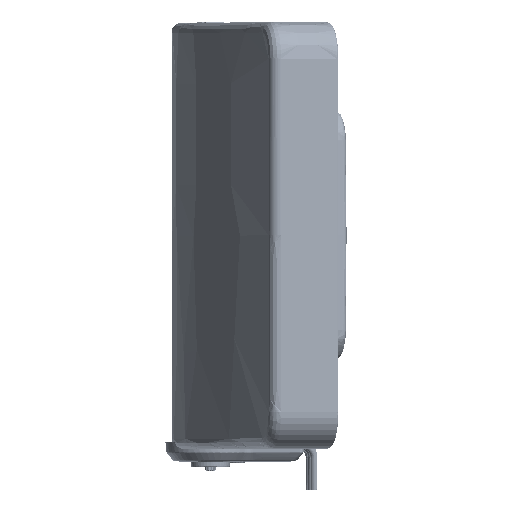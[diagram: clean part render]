
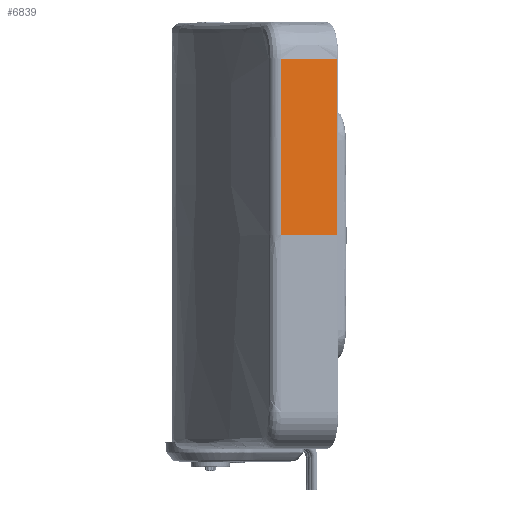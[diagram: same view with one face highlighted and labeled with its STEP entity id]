
A CAD part, top view. The second image highlights one B-rep face of the part: STEP entity #6839.
In plain terms, the highlighted planar face has unit normal (0.254, 0, 0.967).
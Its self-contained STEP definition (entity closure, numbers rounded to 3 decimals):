
#6816=AXIS2_PLACEMENT_3D('Plane Axis2P3D',#6813,#6814,#6815) ;
#2843=CARTESIAN_POINT('Vertex',(661.64,90.267,289.8)) ;
#4037=CARTESIAN_POINT('Line Origine',(661.642,215.666,289.8)) ;
#4041=CARTESIAN_POINT('Vertex',(661.642,297.838,289.8)) ;
#4635=CARTESIAN_POINT('Line Origine',(694.203,90.267,281.248)) ;
#4639=CARTESIAN_POINT('Vertex',(726.764,90.266,272.697)) ;
#6813=CARTESIAN_POINT('Axis2P3D Location',(689.623,214.809,282.451)) ;
#6818=CARTESIAN_POINT('Line Origine',(726.764,194.052,272.697)) ;
#6822=CARTESIAN_POINT('Vertex',(726.764,297.837,272.697)) ;
#6826=CARTESIAN_POINT('Control Point',(661.642,297.838,289.8)) ;
#6827=CARTESIAN_POINT('Control Point',(674.128,297.837,286.521)) ;
#6828=CARTESIAN_POINT('Control Point',(687.493,297.837,283.011)) ;
#6829=CARTESIAN_POINT('Control Point',(702.248,297.837,279.136)) ;
#6830=CARTESIAN_POINT('Control Point',(714.672,297.837,275.873)) ;
#6831=CARTESIAN_POINT('Control Point',(726.764,297.837,272.697)) ;
#4038=DIRECTION('Vector Direction',(0.,1.,0.)) ;
#4636=DIRECTION('Vector Direction',(-0.967,0.,0.254)) ;
#6814=DIRECTION('Axis2P3D Direction',(-0.254,0.,-0.967)) ;
#6815=DIRECTION('Axis2P3D XDirection',(0.,1.,0.)) ;
#6819=DIRECTION('Vector Direction',(0.,1.,0.)) ;
#4039=VECTOR('Line Direction',#4038,1.) ;
#4637=VECTOR('Line Direction',#4636,1.) ;
#6820=VECTOR('Line Direction',#6819,1.) ;
#6834=ORIENTED_EDGE('',*,*,#6824,.F.) ;
#6835=ORIENTED_EDGE('',*,*,#6832,.F.) ;
#6836=ORIENTED_EDGE('',*,*,#4043,.F.) ;
#6837=ORIENTED_EDGE('',*,*,#4641,.F.) ;
#6839=ADVANCED_FACE('\X2\6CE16CAB672C4F5365B0\X0\',(#6838),#6817,.F.) ;
#6825=B_SPLINE_CURVE_WITH_KNOTS('',5,(#6826,#6827,#6828,#6829,#6830,#6831),.UNSPECIFIED.,.F.,.U.,(6,6),(17.431,105.591),.UNSPECIFIED.) ;
#4043=EDGE_CURVE('',#2844,#4042,#4040,.T.) ;
#4641=EDGE_CURVE('',#4640,#2844,#4638,.T.) ;
#6824=EDGE_CURVE('',#6823,#4640,#6821,.F.) ;
#6832=EDGE_CURVE('',#4042,#6823,#6825,.T.) ;
#6833=EDGE_LOOP('',(#6834,#6835,#6836,#6837)) ;
#6838=FACE_OUTER_BOUND('',#6833,.T.) ;
#4040=LINE('Line',#4037,#4039) ;
#4638=LINE('Line',#4635,#4637) ;
#6821=LINE('Line',#6818,#6820) ;
#6817=PLANE('Plane',#6816) ;
#2844=VERTEX_POINT('',#2843) ;
#4042=VERTEX_POINT('',#4041) ;
#4640=VERTEX_POINT('',#4639) ;
#6823=VERTEX_POINT('',#6822) ;
